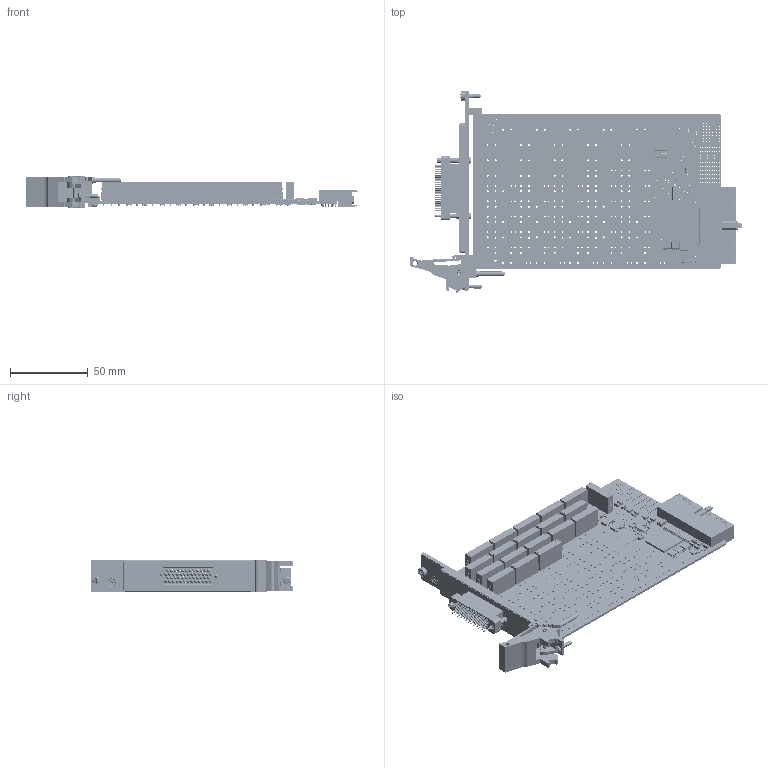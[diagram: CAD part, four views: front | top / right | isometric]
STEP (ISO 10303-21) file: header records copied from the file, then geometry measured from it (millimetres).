
FILE_DESCRIPTION (( 'STEP AP214' ), '1' );
FILE_NAME ('40-153-004 PXI Power Relay Module 18xSPST 5 Amp 50-pin SGMC Connector.STEP', '2025-11-07T15:46:04', ( '' ), ( '' ), 'SwSTEP 2.0', 'SolidWorks 2023', '' );
FILE_SCHEMA (( 'AUTOMOTIVE_DESIGN' ));
Length unit declared in the file: millimetre
Products named in the file (65): C-CP-175 CAP 22uF 1206 25V X5R 10%; C-RS-254 Res  0603; C-CN-1582-MaleScrew 50 Way ST M Connector Screw ; A-FP-1232-L1 1 Slot 1x50Way SGMC Front Panel Assembly; C-SC-168 SOT363 Complementary MOSFET 20V-8V; C-BK-026 Bush Front Panel Mounting; C-CP-239  Power Line Filter; A-PC-1426-V02 5A  SPST Mother Card; C-IC-369 FPGA 17000 Cells 65nm Technology 1.2V 256-Pin FTBGA; C-PC-1426 SPST 5A Uncommitted Relay Mother; C-RL-349 PLC Relay 5V; C-CN-1582 50 Way ST M Connector Assy; C-RS-147 Res 100R 0603 1-16W 1% 100PPM; C-FP-1232 1 Slot 1x50Way SGMC Front Panel; C-CN-355 Compact pci connector 3_Render; L-FX-165 PXI Handle Label; C-SC-056 80V 250mA (DC) SOD323 Diode; C-FX-042 Screw M2.5x6 CSK Pozi_M 2.5x06 - C-FX-042; C-CP-124 CAP 10nF CERAMIC SMT 0402; C-MS-803 BEAD 120R 0603 2A 0R05 25%; C-IC-458 LDO VOLTAGE REGULATOR 1.2V SOT; C-CP-034; C-FX-165 Handle Body; C-RS-190 Res 0R0 SIZE 0603 SMT; A-FP-1232 1 Slot 1x50Way SGMC Front Panel Assembly; C-CP-141 CAP 10UF 1206 35V X5R 10%; C-FX-165 Handle Finger; C-CN-1586 Male Contact SGMC ST M Crimp 22 AWG; C-IC-441 1kV Hex Digital Isolator; C-CP-130 CAP 1uF CERAMIC SMT 0603; C-IC-442 VSSOP 8PIN SD; C-FX-524 Screw, 2-56UNC x 0.1875in, Pan Hd, Pozi, A2 St Steel_ISO 7045 - M2.5 x 6 - Z --- 6N; L-FP-1232-A-# 1 Slot 1x50Way SGMC Label; P-FX-017 M2,5 Collar Posi-Slot Screw; Z-FX-2001 FP Fixing - Bush + Screw; C-IC-425 SOICN 8PIN SD; C-CN-1071; C-IC-124 16-Bit Constant Current Sink Driver; C-BP-068 10mm Thick PXI 3U x 1 Slot Blank Panel; C-RS-659 RES NW 4K7 4RES 8PINS SMT1206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
Assembly tree (283 placements, depth 5):
  40-153-004 PXI Power Relay Module 18xSPST 5 Amp 50-pin SGMC Connector
    A-PC-1426-V02 5A  SPST Mother Card
      A-PC-1426-V02-# 5A  SPST Mother Card
        C-PC-1426 SPST 5A Uncommitted Relay Mother
        C-CP-034  x25
        C-RS-147 Res 100R 0603 1-16W 1% 100PPM
        C-IC-124 16-Bit Constant Current Sink Driver  x4
        C-RS-190 Res 0R0 SIZE 0603 SMT
        C-RS-254 Res  0603  x4
        C-RL-349 PLC Relay 5V  x19
        C-SC-056 80V 250mA (DC) SOD323 Diode  x50
        C-SC-168 SOT363 Complementary MOSFET 20V-8V  x2
        C-IC-441 1kV Hex Digital Isolator
        C-CP-124 CAP 10nF CERAMIC SMT 0402  x29
        C-CP-175 CAP 22uF 1206 25V X5R 10%  x2
        C-CP-141 CAP 10UF 1206 35V X5R 10%  x7
        C-IC-425 SOICN 8PIN SD  x2
        C-RS-152 Res 10K 0603 1-16W 1% 300PPM  x2
        C-CP-099 CAP 0.1uF 16V 0402 SMT  x12
        C-IC-426 32-Flash Memory Standard Serial NOR 32Mbit SPI WSOIC-8
        C-IC-442 VSSOP 8PIN SD
        C-IC-458 LDO VOLTAGE REGULATOR 1.2V SOT
        C-IC-546 24 BIT BUS SWITCH 56PIN TVSOP  x2
        C-IC-369 FPGA 17000 Cells 65nm Technology 1.2V 256-Pin FTBGA
        C-RS-148 Res 1K 0603 1-16W 1% 100PPM  x2
        C-RS-659 RES NW 4K7 4RES 8PINS SMT1206  x4
        C-RS-521 Res 120R (0603) 1-16W 1% 100pp
        C-SC-146 Dual Transistor SOT-14  x2
        C-MS-803 BEAD 120R 0603 2A 0R05 25%  x2
        C-CN-1071
          C-CN-107-BODY
          C-CN-107-PIN  x8
        C-CP-130 CAP 1uF CERAMIC SMT 0603  x2
        C-CP-139 CAP 4.7UF 1206 16V X7R 10%  x2
        C-CP-239  Power Line Filter  x3
        C-CN-355 Compact pci connector 3_Render
    A-FP-1232-L1 1 Slot 1x50Way SGMC Front Panel Assembly
      A-FP-1232 1 Slot 1x50Way SGMC Front Panel Assembly
        C-FP-1232 1 Slot 1x50Way SGMC Front Panel
          C-BP-068 10mm Thick PXI 3U x 1 Slot Blank Panel
        L-FP-1232 1 Slot 1x50Way SGMC Label
          L-FP-1232-# 1 Slot 1x50Way SGMC Label
        L-FP-1232-A 1 Slot 1x50Way SGMC Label
          L-FP-1232-A-# 1 Slot 1x50Way SGMC Label
      Z-FX-2001 FP Fixing - Bush + Screw
        C-BK-026 Bush Front Panel Mounting
        C-FX-1176 M2,5 Collar Posi-Slot Screw
      C-FX-165 CPCI Ejector Handle
        C-FX-165 Handle Body
        C-FX-165 Handle Finger
        C-FX-165 Handle Pin
        P-FX-017 M2,5 Collar Posi-Slot Screw
        L-FX-165 PXI Handle Label
      C-FX-101 Screw, M2.5 x 6, Pan Hd, Pozi, Steel, BZP
      C-FX-1181 Low Profile L Shaped Reversed Mounting Block
      C-FX-042 Screw M2.5x6 CSK Pozi_M 2.5x06 - C-FX-042
    C-CN-1582 50 Way ST M Connector Assy
      C-CN-1582-Body 50 Way ST M Connector Body 
      C-CN-1582-FemaleScrew 50 Way ST M Connector Screw 
      C-CN-1582-MaleScrew 50 Way ST M Connector Screw 
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Bounding box: 213.7 x 129.62 x 20 mm (x, y, z)
Volume: 79894.1 mm3; surface area: 93764.9 mm2
Topology: 277 solids, 304 shells, 24183 faces, 60905 edges, 37926 vertices
Faces by surface type: plane 12579, cylinder 7101, cone 1895, torus 1378, bspline 714, sphere 516
Entity records: 456963 total; most frequent: CARTESIAN_POINT 99743, DIRECTION 56358, ORIENTED_EDGE 56046, EDGE_CURVE 28025, AXIS2_PLACEMENT_3D 19296, VERTEX_POINT 17909, LINE 17766, VECTOR 17766
